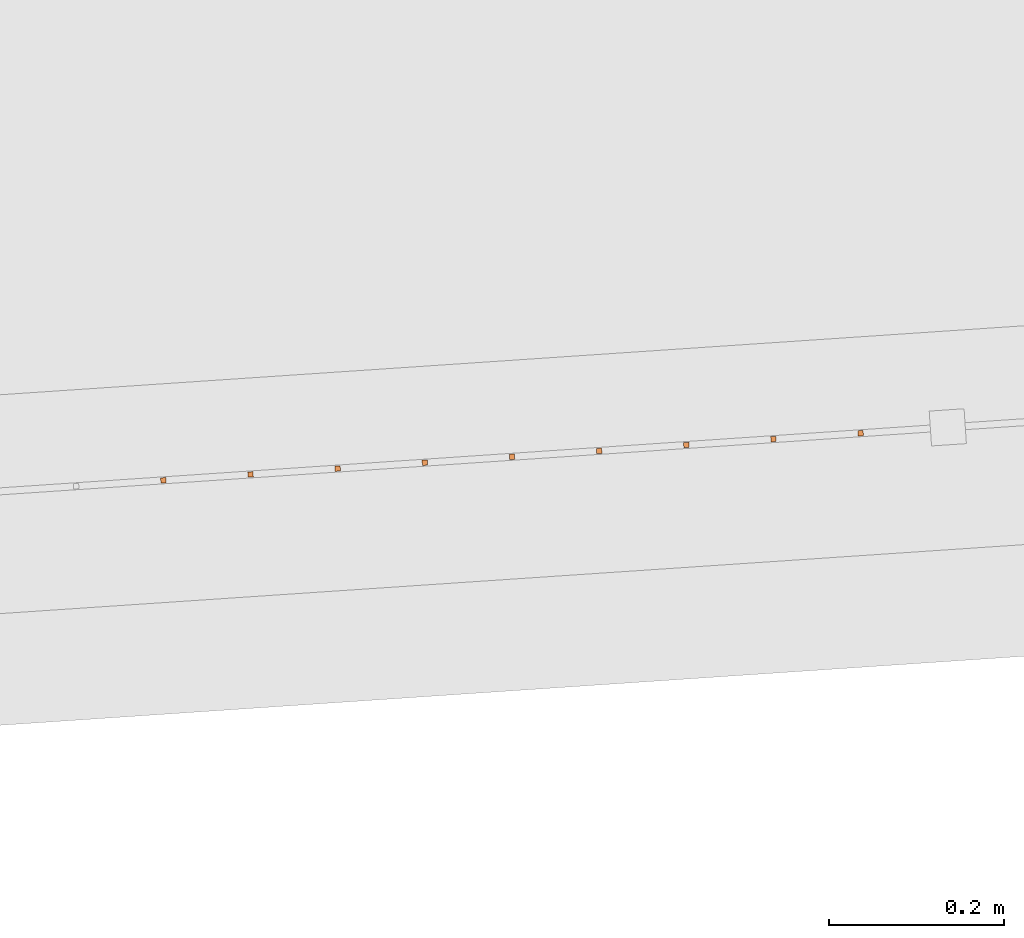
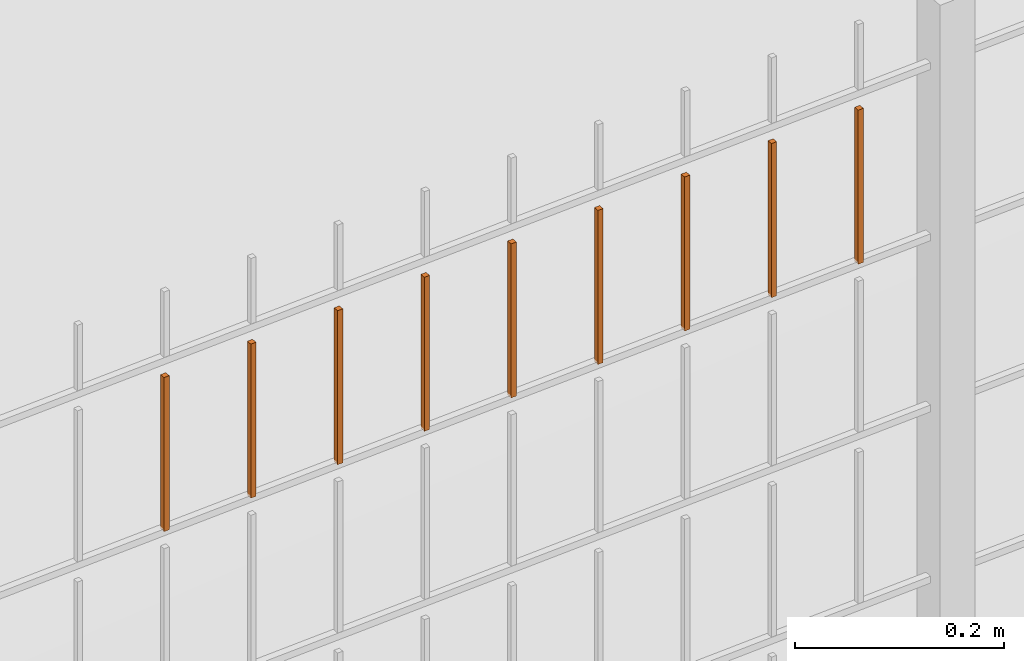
# One storey, part 209 of 1809: 9 proxies, 1 element without a shape of its own.
"""IFC2X3 building model written with IfcOpenShell, lengths in millimetres."""

from ifc_helpers import new_model, entity, si_unit, converted_unit, derived_unit, money_unit, direction, frame, origin_with_axes, place, context, subcontext, project, spatial, faceted_brep, source, transform, mapped, material, type_object, element, aggregate, save


model = new_model("IFC2X3")

# Units and contexts
model_context = context("Model", 3, precision=0.01, world=origin_with_axes(), true_north=direction((0.0, 1.0)))
body_context = subcontext(model_context, "Body", "Model", "MODEL_VIEW")
ifc_project = project(units=[si_unit("LENGTHUNIT", "METRE", prefix="MILLI"), si_unit("AREAUNIT", "SQUARE_METRE"), si_unit("VOLUMEUNIT", "CUBIC_METRE"), converted_unit("PLANEANGLEUNIT", "DEGREE", entity("IfcPlaneAngleMeasure", 0.0174532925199), si_unit("PLANEANGLEUNIT", "RADIAN"), dimensions=[0, 0, 0, 0, 0, 0, 0]), si_unit("SOLIDANGLEUNIT", "STERADIAN"), money_unit("EUR"), converted_unit("TIMEUNIT", "Year", entity("IfcTimeMeasure", 31556926.0), si_unit("TIMEUNIT", "SECOND"), dimensions=[0, 0, 1, 0, 0, 0, 0]), si_unit("MASSUNIT", "GRAM", prefix="KILO"), si_unit("THERMODYNAMICTEMPERATUREUNIT", "DEGREE_CELSIUS"), si_unit("LUMINOUSINTENSITYUNIT", "LUMEN"), si_unit("ENERGYUNIT", "JOULE", prefix="MEGA"), derived_unit("THERMALCONDUCTANCEUNIT", [(si_unit("POWERUNIT", "WATT"), 1), (si_unit("LENGTHUNIT", "METRE"), -1), (si_unit("THERMODYNAMICTEMPERATUREUNIT", "KELVIN"), -1)]), derived_unit("SPECIFICHEATCAPACITYUNIT", [(si_unit("ENERGYUNIT", "JOULE"), 1), (si_unit("MASSUNIT", "GRAM", prefix="KILO"), -1), (si_unit("THERMODYNAMICTEMPERATUREUNIT", "KELVIN"), -1)]), derived_unit("MASSDENSITYUNIT", [(si_unit("MASSUNIT", "GRAM", prefix="KILO"), 1), (si_unit("VOLUMEUNIT", "CUBIC_METRE"), -1)])], contexts=[model_context])

# Site, building, storey
site_placement = place(None, origin_with_axes())
site = spatial("IfcSite", under=ifc_project, at=site_placement, Name="Politse- ja Piirivalveameti ning Päästeameti ühishoone", CompositionType="ELEMENT")
building_placement = place(site_placement, origin_with_axes())
building = spatial("IfcBuilding", under=site, at=building_placement, Name="Politse- ja Piirivalveameti ning Päästeameti ühishoone", CompositionType="ELEMENT")
storey_placement = place(building_placement, origin_with_axes())
storey = spatial("IfcBuildingStorey", under=building, at=storey_placement, Name="Esimene korrus", CompositionType="ELEMENT", Elevation=0.0)

# Proxies
building_element_proxy_type_1 = type_object("IfcBuildingElementProxyType", Name="Railing Type", PredefinedType="NOTDEFINED")
proxy_1_placement = place(storey_placement, frame((89252.001212, -29183.4766571, 203.661247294), z_axis=(0.0, 0.0, 1.0), x_axis=(1.0, 0.0, 0.0)))
proxy_1 = element("IfcBuildingElementProxy", 1, at=proxy_1_placement, inside=storey, type_object=building_element_proxy_type_1, Name="PIIRDEAED")
ifc_material = material(Name="ET-03_Raud")
building_element_proxy_type_2 = type_object("IfcBuildingElementProxyType", Name="IfcBuildingElementProxy", PredefinedType="NOTDEFINED")
shared_shape_1 = source(origin_with_axes(), body_context, "Body", "Brep", [
    faceted_brep([(3.0, 3.0, -0.000752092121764), (-3.0, 3.0, -0.000752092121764), (-3.0, 3.0, 179.99926046), (3.0, 3.0, 179.99926046), (3.0, -3.0, 0.000752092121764), (-3.0, -3.0, 0.000752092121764), (-3.0, -3.0, 180.000764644), (3.0, -3.0, 180.000764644)], [[[0, 1, 2, 3]], [[0, 4, 5, 1]], [[1, 5, 6, 2]], [[3, 2, 6, 7]], [[4, 0, 3, 7]], [[5, 4, 7, 6]]]),
])
proxy_2_placement = place(proxy_1_placement, frame((-62384.5354348, -21511.6146995, 1811.55910904), z_axis=(0.0, 0.0, 1.0), x_axis=(1.0, 0.0, 0.0)))
proxy_2 = element("IfcBuildingElementProxy", 2, at=proxy_2_placement, type_object=building_element_proxy_type_2, material=ifc_material, Name="BALUSTER - 001", context=body_context, shape_type="MappedRepresentation", body=[
    mapped(shared_shape_1, transform((0.0, 0.0, 0.0), x_axis=(-0.0673926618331, 0.997726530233, 0.0), y_axis=(-0.997726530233, -0.0673926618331, 0.0), z_axis=(0.0, 0.0, 1.0))),
])
shared_shape_2 = source(origin_with_axes(), body_context, "Body", "Brep", [
    faceted_brep([(3.0, 3.0, -0.000752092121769), (-3.0, 3.0, -0.000752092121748), (-3.0, 3.0, 179.99926046), (3.0, 3.0, 179.99926046), (3.0, -3.0, 0.000752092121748), (-3.0, -3.0, 0.000752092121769), (-3.0, -3.0, 180.000764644), (3.0, -3.0, 180.000764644)], [[[0, 1, 2, 3]], [[0, 4, 5, 1]], [[1, 5, 6, 2]], [[3, 2, 6, 7]], [[4, 0, 3, 7]], [[5, 4, 7, 6]]]),
])
proxy_3_placement = place(proxy_1_placement, frame((-62783.6260468, -21538.5717642, 1811.45883009), z_axis=(0.0, 0.0, 1.0), x_axis=(1.0, 0.0, 0.0)))
proxy_3 = element("IfcBuildingElementProxy", 3, at=proxy_3_placement, type_object=building_element_proxy_type_2, material=ifc_material, Name="BALUSTER - 001", context=body_context, shape_type="MappedRepresentation", body=[
    mapped(shared_shape_2, transform((0.0, 0.0, 0.0), x_axis=(-0.0673926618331, 0.997726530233, 0.0), y_axis=(-0.997726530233, -0.0673926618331, 0.0), z_axis=(0.0, 0.0, 1.0))),
])
shared_shape_3 = source(origin_with_axes(), body_context, "Body", "Brep", [
    faceted_brep([(3.0, 3.0, -0.000752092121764), (-3.0, 3.0, -0.000752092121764), (-3.0, 3.0, 179.99926046), (3.0, 3.0, 179.99926046), (3.0, -3.0, 0.000752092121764), (-3.0, -3.0, 0.000752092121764), (-3.0, -3.0, 180.000764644), (3.0, -3.0, 180.000764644)], [[[0, 1, 2, 3]], [[0, 4, 5, 1]], [[1, 5, 6, 2]], [[3, 2, 6, 7]], [[4, 0, 3, 7]], [[5, 4, 7, 6]]]),
])
proxy_4_placement = place(proxy_1_placement, frame((-62584.0807408, -21525.0932318, 1811.50896956), z_axis=(0.0, 0.0, 1.0), x_axis=(1.0, 0.0, 0.0)))
proxy_4 = element("IfcBuildingElementProxy", 4, at=proxy_4_placement, type_object=building_element_proxy_type_2, material=ifc_material, Name="BALUSTER - 001", context=body_context, shape_type="MappedRepresentation", body=[
    mapped(shared_shape_3, transform((0.0, 0.0, 0.0), x_axis=(-0.0673926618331, 0.997726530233, 0.0), y_axis=(-0.997726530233, -0.0673926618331, 0.0), z_axis=(0.0, 0.0, 1.0))),
])
shared_shape_4 = source(origin_with_axes(), body_context, "Body", "Brep", [
    faceted_brep([(3.0, 3.0, -0.000752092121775), (-3.0, 3.0, -0.000752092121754), (-3.0, 3.0, 179.99926046), (3.0, 3.0, 179.99926046), (3.0, -3.0, 0.000752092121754), (-3.0, -3.0, 0.000752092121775), (-3.0, -3.0, 180.000764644), (3.0, -3.0, 180.000764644)], [[[0, 1, 2, 3]], [[0, 4, 5, 1]], [[1, 5, 6, 2]], [[3, 2, 6, 7]], [[4, 0, 3, 7]], [[5, 4, 7, 6]]]),
])
proxy_5_placement = place(proxy_1_placement, frame((-62983.1713529, -21552.0502966, 1811.40869061), z_axis=(0.0, 0.0, 1.0), x_axis=(1.0, 0.0, 0.0)))
proxy_5 = element("IfcBuildingElementProxy", 5, at=proxy_5_placement, type_object=building_element_proxy_type_2, material=ifc_material, Name="BALUSTER - 001", context=body_context, shape_type="MappedRepresentation", body=[
    mapped(shared_shape_4, transform((0.0, 0.0, 0.0), x_axis=(-0.0673926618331, 0.997726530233, 0.0), y_axis=(-0.997726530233, -0.0673926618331, 0.0), z_axis=(0.0, 0.0, 1.0))),
])
shared_shape_5 = source(origin_with_axes(), body_context, "Body", "Brep", [
    faceted_brep([(3.0, 3.0, -0.000752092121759), (-3.0, 3.0, -0.000752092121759), (-3.0, 3.0, 179.99926046), (3.0, 3.0, 179.99926046), (3.0, -3.0, 0.000752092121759), (-3.0, -3.0, 0.000752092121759), (-3.0, -3.0, 180.000764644), (3.0, -3.0, 180.000764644)], [[[0, 1, 2, 3]], [[0, 4, 5, 1]], [[1, 5, 6, 2]], [[3, 2, 6, 7]], [[4, 0, 3, 7]], [[5, 4, 7, 6]]]),
])
proxy_6_placement = place(proxy_1_placement, frame((-62683.8533938, -21531.832498, 1811.48389982), z_axis=(0.0, 0.0, 1.0), x_axis=(1.0, 0.0, 0.0)))
proxy_6 = element("IfcBuildingElementProxy", 6, at=proxy_6_placement, type_object=building_element_proxy_type_2, material=ifc_material, Name="BALUSTER - 001", context=body_context, shape_type="MappedRepresentation", body=[
    mapped(shared_shape_5, transform((0.0, 0.0, 0.0), x_axis=(-0.0673926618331, 0.997726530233, 0.0), y_axis=(-0.997726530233, -0.0673926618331, 0.0), z_axis=(0.0, 0.0, 1.0))),
])
shared_shape_6 = source(origin_with_axes(), body_context, "Body", "Brep", [
    faceted_brep([(3.0, 3.0, -0.000752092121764), (-3.0, 3.0, -0.000752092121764), (-3.0, 3.0, 179.99926046), (3.0, 3.0, 179.99926046), (3.0, -3.0, 0.000752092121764), (-3.0, -3.0, 0.000752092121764), (-3.0, -3.0, 180.000764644), (3.0, -3.0, 180.000764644)], [[[0, 1, 2, 3]], [[0, 4, 5, 1]], [[1, 5, 6, 2]], [[3, 2, 6, 7]], [[4, 0, 3, 7]], [[5, 4, 7, 6]]]),
])
proxy_7_placement = place(proxy_1_placement, frame((-63082.9440059, -21558.7895628, 1811.38362087), z_axis=(0.0, 0.0, 1.0), x_axis=(1.0, 0.0, 0.0)))
proxy_7 = element("IfcBuildingElementProxy", 7, at=proxy_7_placement, type_object=building_element_proxy_type_2, material=ifc_material, Name="BALUSTER - 001", context=body_context, shape_type="MappedRepresentation", body=[
    mapped(shared_shape_6, transform((0.0, 0.0, 0.0), x_axis=(-0.0673926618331, 0.997726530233, 0.0), y_axis=(-0.997726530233, -0.0673926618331, 0.0), z_axis=(0.0, 0.0, 1.0))),
])
shared_shape_7 = source(origin_with_axes(), body_context, "Body", "Brep", [
    faceted_brep([(3.0, 3.0, -0.000752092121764), (-3.0, 3.0, -0.000752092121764), (-3.0, 3.0, 179.99926046), (3.0, 3.0, 179.99926046), (3.0, -3.0, 0.000752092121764), (-3.0, -3.0, 0.000752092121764), (-3.0, -3.0, 180.000764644), (3.0, -3.0, 180.000764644)], [[[0, 1, 2, 3]], [[0, 4, 5, 1]], [[1, 5, 6, 2]], [[3, 2, 6, 7]], [[4, 0, 3, 7]], [[5, 4, 7, 6]]]),
])
proxy_8_placement = place(proxy_1_placement, frame((-62484.3080878, -21518.3539657, 1811.5340393), z_axis=(0.0, 0.0, 1.0), x_axis=(1.0, 0.0, 0.0)))
proxy_8 = element("IfcBuildingElementProxy", 8, at=proxy_8_placement, type_object=building_element_proxy_type_2, material=ifc_material, Name="BALUSTER - 001", context=body_context, shape_type="MappedRepresentation", body=[
    mapped(shared_shape_7, transform((0.0, 0.0, 0.0), x_axis=(-0.0673926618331, 0.997726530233, 0.0), y_axis=(-0.997726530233, -0.0673926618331, 0.0), z_axis=(0.0, 0.0, 1.0))),
])
shared_shape_8 = source(origin_with_axes(), body_context, "Body", "Brep", [
    faceted_brep([(3.0, 3.0, -0.000752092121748), (-3.0, 3.0, -0.00075209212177), (-3.0, 3.0, 179.99926046), (3.0, 3.0, 179.99926046), (3.0, -3.0, 0.00075209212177), (-3.0, -3.0, 0.000752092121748), (-3.0, -3.0, 180.000764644), (3.0, -3.0, 180.000764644)], [[[0, 1, 2, 3]], [[0, 4, 5, 1]], [[1, 5, 6, 2]], [[3, 2, 6, 7]], [[4, 0, 3, 7]], [[5, 4, 7, 6]]]),
])
proxy_9_placement = place(proxy_1_placement, frame((-62284.7627817, -21504.8754333, 1811.58417877), z_axis=(0.0, 0.0, 1.0), x_axis=(1.0, 0.0, 0.0)))
proxy_9 = element("IfcBuildingElementProxy", 9, at=proxy_9_placement, type_object=building_element_proxy_type_2, material=ifc_material, Name="BALUSTER - 001", context=body_context, shape_type="MappedRepresentation", body=[
    mapped(shared_shape_8, transform((0.0, 0.0, 0.0), x_axis=(-0.0673926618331, 0.997726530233, 0.0), y_axis=(-0.997726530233, -0.0673926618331, 0.0), z_axis=(0.0, 0.0, 1.0))),
])
shared_shape_9 = source(origin_with_axes(), body_context, "Body", "Brep", [
    faceted_brep([(3.0, 3.0, -0.000752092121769), (-3.0, 3.0, -0.00075209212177), (-3.0, 3.0, 179.99926046), (3.0, 3.0, 179.99926046), (3.0, -3.0, 0.00075209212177), (-3.0, -3.0, 0.000752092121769), (-3.0, -3.0, 180.000764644), (3.0, -3.0, 180.000764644)], [[[0, 1, 2, 3]], [[0, 4, 5, 1]], [[1, 5, 6, 2]], [[3, 2, 6, 7]], [[4, 0, 3, 7]], [[5, 4, 7, 6]]]),
])
proxy_10_placement = place(proxy_1_placement, frame((-62883.3986999, -21545.3110304, 1811.43376035), z_axis=(0.0, 0.0, 1.0), x_axis=(1.0, 0.0, 0.0)))
proxy_10 = element("IfcBuildingElementProxy", 10, at=proxy_10_placement, type_object=building_element_proxy_type_2, material=ifc_material, Name="BALUSTER - 001", context=body_context, shape_type="MappedRepresentation", body=[
    mapped(shared_shape_9, transform((0.0, 0.0, 0.0), x_axis=(-0.0673926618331, 0.997726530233, 0.0), y_axis=(-0.997726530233, -0.0673926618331, 0.0), z_axis=(0.0, 0.0, 1.0))),
])
aggregate(proxy_1, [proxy_9, proxy_2, proxy_8, proxy_4, proxy_6, proxy_3, proxy_10, proxy_5, proxy_7])

save(model, "model.ifc")
